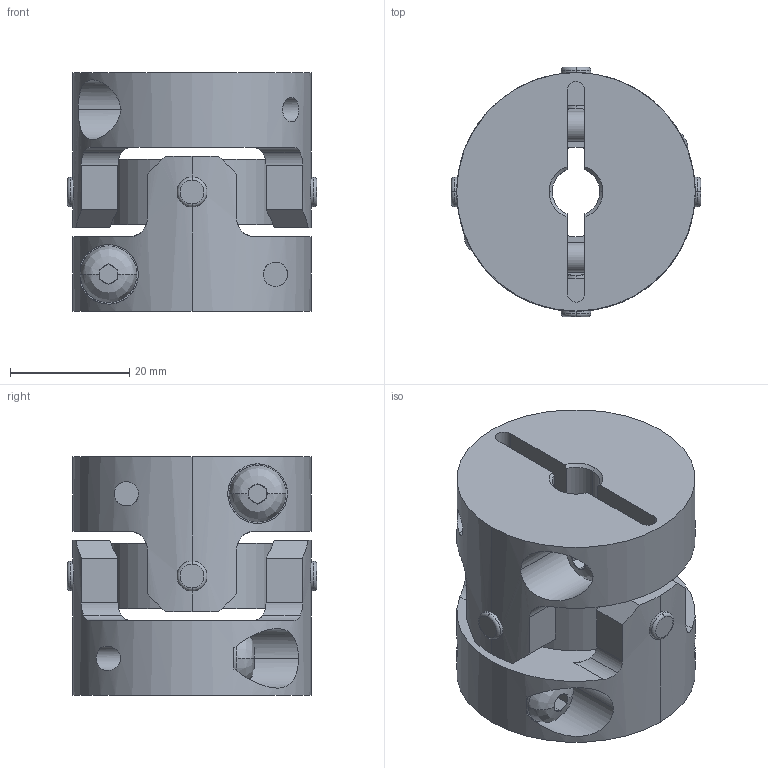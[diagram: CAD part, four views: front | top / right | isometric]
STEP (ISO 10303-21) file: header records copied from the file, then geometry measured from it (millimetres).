
FILE_DESCRIPTION((''),'2;1');
FILE_NAME('UA-40C-8×20.stp','2013-05-22T08:54:23',(''),(''),'AutoCAD STEP 2000i','AutoCAD 2000i',', , ');
FILE_SCHEMA(('CONFIG_CONTROL_DESIGN'));
Length unit declared in the file: millimetre
Products named in the file (7): UA-40C-8×18; 忣兜1; UA-4002-D18; BTN-M5; UA-4002-D08-1; UA-4002-D08; UA40-SEN
Assembly tree (8 placements, depth 3):
  UA-40C-8×18
    忣兜1
    UA-4002-D18
      BTN-M5
    UA-4002-D08-1
      BTN-M5
    UA-4002-D08
      BTN-M5
    UA40-SEN
Bounding box: 41.81 x 41.81 x 40 mm (x, y, z)
Volume: 32788.3 mm3; surface area: 15145.1 mm2
Topology: 1 solids, 1 shells, 252 faces, 654 edges, 412 vertices
Faces by surface type: plane 124, cylinder 96, cone 16, bspline 8, torus 8
Entity records: 9705 total; most frequent: CARTESIAN_POINT 3363, DIRECTION 1308, ORIENTED_EDGE 1308, EDGE_CURVE 654, AXIS2_PLACEMENT_3D 505, VERTEX_POINT 412, VECTOR 298, LINE 298
